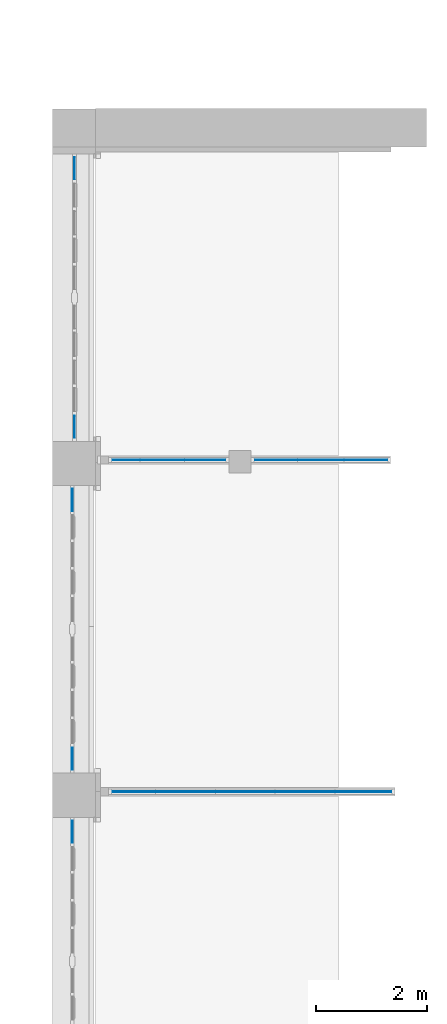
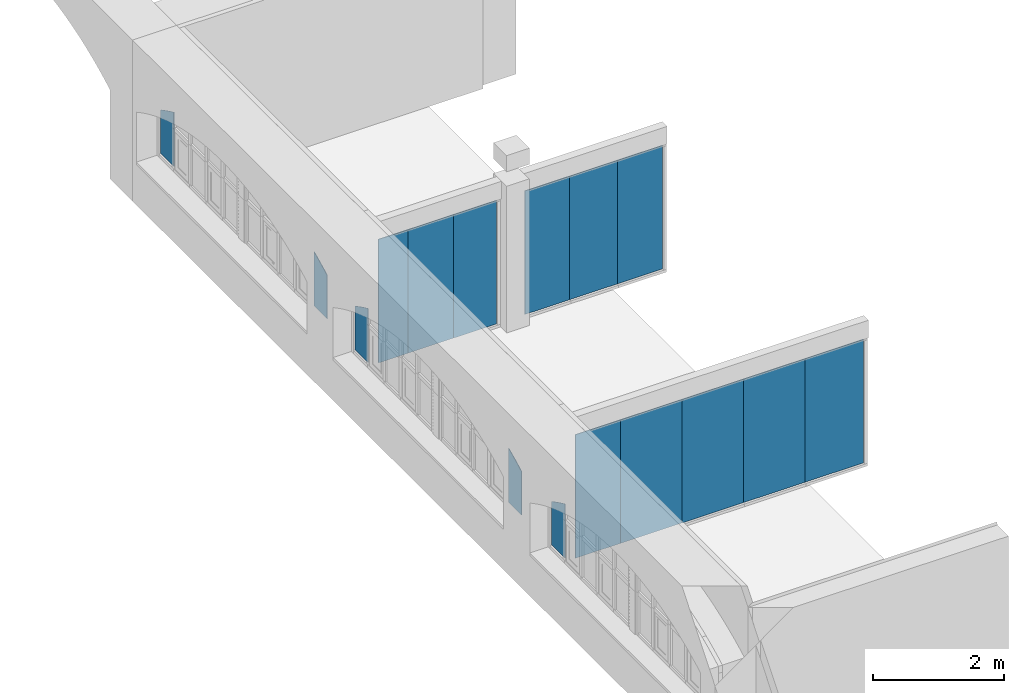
# One storey, part 24 of 32: 16 plates, 6 elements without a shape of their own.
"""IFC2X3 building model written with IfcOpenShell, lengths in millimetres."""

from ifc_helpers import new_model, entity, si_unit, converted_unit, derived_unit, direction, frame, frame_2d, origin, origin_2d_with_axis, place, context, subcontext, project, spatial, polyline, circle_curve, parameter, trimmed, segment, composite_curve, rectangle, outline, extrude, source, transform, mapped, material, type_object, type_shapes, element, aggregate, save


model = new_model("IFC2X3")

# Units and contexts
model_context = context("Model", 3, precision=0.01, world=origin(), true_north=direction((6.123031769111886e-17, 1.0)))
body_context = subcontext(model_context, "Body", "Model", "MODEL_VIEW")
ifc_project = project(units=[si_unit("LENGTHUNIT", "METRE", prefix="MILLI"), si_unit("AREAUNIT", "SQUARE_METRE"), si_unit("VOLUMEUNIT", "CUBIC_METRE"), converted_unit("PLANEANGLEUNIT", "DEGREE", entity("IfcPlaneAngleMeasure", 0.017453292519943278), si_unit("PLANEANGLEUNIT", "RADIAN"), dimensions=[0, 0, 0, 0, 0, 0, 0]), si_unit("MASSUNIT", "GRAM", prefix="KILO"), derived_unit("MASSDENSITYUNIT", [(si_unit("MASSUNIT", "GRAM", prefix="KILO"), 1), (si_unit("LENGTHUNIT", "METRE"), -3)]), derived_unit("IONCONCENTRATIONUNIT", [(si_unit("MASSUNIT", "GRAM", prefix="KILO"), 1), (si_unit("LENGTHUNIT", "METRE"), -3)]), derived_unit("MOMENTOFINERTIAUNIT", [(si_unit("LENGTHUNIT", "METRE"), 4)]), si_unit("TIMEUNIT", "SECOND"), si_unit("FREQUENCYUNIT", "HERTZ"), si_unit("THERMODYNAMICTEMPERATUREUNIT", "DEGREE_CELSIUS"), derived_unit("THERMALTRANSMITTANCEUNIT", [(si_unit("MASSUNIT", "GRAM", prefix="KILO"), 1), (si_unit("THERMODYNAMICTEMPERATUREUNIT", "KELVIN"), -1), (si_unit("TIMEUNIT", "SECOND"), -3)]), derived_unit("THERMALCONDUCTANCEUNIT", [(si_unit("MASSUNIT", "GRAM", prefix="KILO"), 1), (si_unit("THERMODYNAMICTEMPERATUREUNIT", "KELVIN"), -1), (si_unit("TIMEUNIT", "SECOND"), -3), (si_unit("LENGTHUNIT", "METRE"), 1)]), derived_unit("VOLUMETRICFLOWRATEUNIT", [(si_unit("LENGTHUNIT", "METRE", prefix="DECI"), 3), (si_unit("TIMEUNIT", "SECOND"), -1)]), derived_unit("MASSFLOWRATEUNIT", [(si_unit("MASSUNIT", "GRAM", prefix="KILO"), 1), (si_unit("TIMEUNIT", "SECOND"), -1)]), derived_unit("ROTATIONALFREQUENCYUNIT", [(si_unit("TIMEUNIT", "SECOND"), -1)]), si_unit("ELECTRICCURRENTUNIT", "AMPERE"), si_unit("ELECTRICVOLTAGEUNIT", "VOLT"), si_unit("POWERUNIT", "WATT"), si_unit("FORCEUNIT", "NEWTON", prefix="KILO"), si_unit("ILLUMINANCEUNIT", "LUX"), si_unit("LUMINOUSFLUXUNIT", "LUMEN"), si_unit("LUMINOUSINTENSITYUNIT", "CANDELA"), si_unit("ENERGYUNIT", "JOULE"), derived_unit("USERDEFINED", [(si_unit("MASSUNIT", "GRAM", prefix="KILO"), -1), (si_unit("LENGTHUNIT", "METRE"), -2), (si_unit("TIMEUNIT", "SECOND"), 3), (si_unit("LUMINOUSFLUXUNIT", "LUMEN"), 1)]), derived_unit("USERDEFINED", [(si_unit("MASSUNIT", "GRAM", prefix="KILO"), 1), (si_unit("TIMEUNIT", "SECOND"), -3), (si_unit("LENGTHUNIT", "METRE"), 3), (si_unit("ELECTRICCURRENTUNIT", "AMPERE"), -2)]), derived_unit("SOUNDPOWERUNIT", [(si_unit("MASSUNIT", "GRAM", prefix="KILO"), 1), (si_unit("TIMEUNIT", "SECOND"), -3), (si_unit("LENGTHUNIT", "METRE"), 2)]), derived_unit("SOUNDPRESSUREUNIT", [(si_unit("MASSUNIT", "GRAM", prefix="KILO"), 1), (si_unit("LENGTHUNIT", "METRE"), -1), (si_unit("TIMEUNIT", "SECOND"), -2)]), derived_unit("LINEARVELOCITYUNIT", [(si_unit("LENGTHUNIT", "METRE"), 1), (si_unit("TIMEUNIT", "SECOND"), -1)]), si_unit("PRESSUREUNIT", "PASCAL"), derived_unit("USERDEFINED", [(si_unit("MASSUNIT", "GRAM", prefix="KILO"), 1), (si_unit("LENGTHUNIT", "METRE"), -2), (si_unit("TIMEUNIT", "SECOND"), -2)]), derived_unit("LINEARFORCEUNIT", [(si_unit("MASSUNIT", "GRAM", prefix="KILO"), 1), (si_unit("TIMEUNIT", "SECOND"), -2)]), derived_unit("PLANARFORCEUNIT", [(si_unit("MASSUNIT", "GRAM", prefix="KILO"), 1), (si_unit("LENGTHUNIT", "METRE"), -1), (si_unit("TIMEUNIT", "SECOND"), -2)]), derived_unit("SPECIFICHEATCAPACITYUNIT", [(si_unit("THERMODYNAMICTEMPERATUREUNIT", "KELVIN"), -1), (si_unit("LENGTHUNIT", "METRE"), 2), (si_unit("TIMEUNIT", "SECOND"), -2)]), derived_unit("HEATFLUXDENSITYUNIT", [(si_unit("MASSUNIT", "GRAM", prefix="KILO"), 1), (si_unit("TIMEUNIT", "SECOND"), -3)]), derived_unit("HEATINGVALUEUNIT", [(si_unit("LENGTHUNIT", "METRE"), 2), (si_unit("TIMEUNIT", "SECOND"), -2)]), derived_unit("VAPORPERMEABILITYUNIT", [(si_unit("LENGTHUNIT", "METRE"), -1), (si_unit("TIMEUNIT", "SECOND"), 1)]), derived_unit("DYNAMICVISCOSITYUNIT", [(si_unit("MASSUNIT", "GRAM", prefix="KILO"), 1), (si_unit("TIMEUNIT", "SECOND"), -1), (si_unit("LENGTHUNIT", "METRE"), -1)]), derived_unit("THERMALEXPANSIONCOEFFICIENTUNIT", [(si_unit("THERMODYNAMICTEMPERATUREUNIT", "KELVIN"), -1)]), derived_unit("MODULUSOFELASTICITYUNIT", [(si_unit("MASSUNIT", "GRAM", prefix="KILO"), 1), (si_unit("LENGTHUNIT", "METRE"), -1), (si_unit("TIMEUNIT", "SECOND"), -2)]), derived_unit("ISOTHERMALMOISTURECAPACITYUNIT", [(si_unit("MASSUNIT", "GRAM", prefix="KILO"), -1), (si_unit("LENGTHUNIT", "METRE"), 3)]), derived_unit("MOISTUREDIFFUSIVITYUNIT", [(si_unit("TIMEUNIT", "SECOND"), -1), (si_unit("LENGTHUNIT", "METRE"), 2)]), derived_unit("MASSPERLENGTHUNIT", [(si_unit("MASSUNIT", "GRAM", prefix="KILO"), 1), (si_unit("LENGTHUNIT", "METRE"), -1)]), derived_unit("THERMALRESISTANCEUNIT", [(si_unit("MASSUNIT", "GRAM", prefix="KILO"), -1), (si_unit("TIMEUNIT", "SECOND"), 3), (si_unit("THERMODYNAMICTEMPERATUREUNIT", "KELVIN"), 1)]), derived_unit("ACCELERATIONUNIT", [(si_unit("LENGTHUNIT", "METRE"), 1), (si_unit("TIMEUNIT", "SECOND"), -2)]), derived_unit("ANGULARVELOCITYUNIT", [(si_unit("TIMEUNIT", "SECOND"), -1), (si_unit("PLANEANGLEUNIT", "RADIAN"), 1)]), derived_unit("LINEARSTIFFNESSUNIT", [(si_unit("MASSUNIT", "GRAM", prefix="KILO"), 1), (si_unit("TIMEUNIT", "SECOND"), -2)]), derived_unit("WARPINGCONSTANTUNIT", [(si_unit("LENGTHUNIT", "METRE"), 6)]), derived_unit("LINEARMOMENTUNIT", [(si_unit("MASSUNIT", "GRAM", prefix="KILO"), 1), (si_unit("LENGTHUNIT", "METRE"), 1), (si_unit("TIMEUNIT", "SECOND"), -2)]), derived_unit("TORQUEUNIT", [(si_unit("MASSUNIT", "GRAM", prefix="KILO"), 1), (si_unit("LENGTHUNIT", "METRE"), 2), (si_unit("TIMEUNIT", "SECOND"), -2)])], contexts=[model_context])

# Site, building, storey
site_placement = place(None, origin())
site = spatial("IfcSite", under=ifc_project, at=site_placement, Name="Default", CompositionType="ELEMENT")
building_placement = place(site_placement, origin())
building = spatial("IfcBuilding", under=site, at=building_placement, Name="Eesti Rahvusraamatukogu hoone renoveerimise projekteerimistööd", CompositionType="ELEMENT")
storey_placement = place(building_placement, frame((0.0, 0.0, 4950.000000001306)))
storey = spatial("IfcBuildingStorey", under=building, at=storey_placement, Name="2. korrus", CompositionType="ELEMENT", Elevation=4950.000000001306)

# Curtain wall, plates
curtain_wall_type_1 = type_object("IfcCurtainWallType", Name="Curtain Wall:VLS Klaasvahesein profiilita 38db", PredefinedType="NOTDEFINED")
curtain_wall_1_placement = place(storey_placement, frame((0.0, 0.0, -4950.000000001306)))
curtain_wall_1 = element("IfcCurtainWall", 1, at=curtain_wall_1_placement, inside=storey, type_object=curtain_wall_type_1, Name="Curtain Wall:VLS Klaasvahesein profiilita 38db", ObjectType="Curtain Wall:VLS Klaasvahesein profiilita 38db")
ifc_material_1 = material(Name="EST. Klaas. 1x. E-korpus")
plate_type_1 = type_object("IfcPlateType", Name="System Panel:VLS Klaas KAR/LAM 6+1+6", PredefinedType="CURTAIN_PANEL", material=ifc_material_1)
shared_shape_1 = source(origin(), body_context, "Body", "SweptSolid", [
    extrude(rectangle(XDim=13.000000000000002, YDim=518.8333334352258, at=origin_2d_with_axis()), frame((0.0, 0.0, 0.0), z_axis=(0.0, 0.0, 1.0), x_axis=(0.0, 1.0, 0.0)), (0.0, 0.0, 1.0), 2300.0000000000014),
])
type_shapes(plate_type_1, [shared_shape_1])
plate_1_placement = place(curtain_wall_1_placement, frame((-35456.08333328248, 42420.0, 5000.0)))
plate_1 = element("IfcPlate", 2, at=plate_1_placement, type_object=plate_type_1, material=ifc_material_1, Name="System Panel:VLS Klaas KAR/LAM 6+1+6", ObjectType="System Panel:VLS Klaas KAR/LAM 6+1+6", context=body_context, shape_type="MappedRepresentation", body=[
    mapped(shared_shape_1, transform((0.0, 0.0, 0.0), scale=1.0)),
])
plate_type_2 = type_object("IfcPlateType", Name="System Panel:VLS Klaas KAR/LAM 6+1+6", PredefinedType="CURTAIN_PANEL", material=ifc_material_1)
shared_shape_2 = source(origin(), body_context, "Body", "SweptSolid", [
    extrude(rectangle(XDim=13.000000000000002, YDim=803.3333331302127, at=origin_2d_with_axis()), frame((0.0, 0.0, 0.0), z_axis=(0.0, 0.0, 1.0), x_axis=(0.0, 1.0, 0.0)), (0.0, 0.0, 1.0), 2300.0000000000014),
])
type_shapes(plate_type_2, [shared_shape_2])
plate_2_placement = place(curtain_wall_1_placement, frame((-34795.0, 42420.0, 5000.0)))
plate_2 = element("IfcPlate", 3, at=plate_2_placement, type_object=plate_type_2, material=ifc_material_1, Name="System Panel:VLS Klaas KAR/LAM 6+1+6", ObjectType="System Panel:VLS Klaas KAR/LAM 6+1+6", context=body_context, shape_type="MappedRepresentation", body=[
    mapped(shared_shape_2, transform((0.0, 0.0, 0.0), scale=1.0)),
])
plate_type_3 = type_object("IfcPlateType", Name="System Panel:VLS Klaas KAR/LAM 6+1+6", PredefinedType="CURTAIN_PANEL", material=ifc_material_1)
shared_shape_3 = source(origin(), body_context, "Body", "SweptSolid", [
    extrude(rectangle(XDim=13.000000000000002, YDim=753.333333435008, at=origin_2d_with_axis()), frame((0.0, 0.0, 0.0), z_axis=(0.0, 0.0, 1.0), x_axis=(0.0, 1.0, 0.0)), (0.0, 0.0, 1.0), 2300.0000000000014),
])
type_shapes(plate_type_3, [shared_shape_3])
plate_3_placement = place(curtain_wall_1_placement, frame((-34016.666666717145, 42420.0, 5000.0)))
plate_3 = element("IfcPlate", 4, at=plate_3_placement, type_object=plate_type_3, material=ifc_material_1, Name="System Panel:VLS Klaas KAR/LAM 6+1+6", ObjectType="System Panel:VLS Klaas KAR/LAM 6+1+6", context=body_context, shape_type="MappedRepresentation", body=[
    mapped(shared_shape_3, transform((0.0, 0.0, 0.0), scale=1.0)),
])
aggregate(curtain_wall_1, [plate_1, plate_2, plate_3])

curtain_wall_2_placement = place(storey_placement, frame((0.0, 0.0, -4950.000000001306)))
curtain_wall_2 = element("IfcCurtainWall", 5, at=curtain_wall_2_placement, inside=storey, type_object=curtain_wall_type_1, Name="Curtain Wall:VLS Klaasvahesein profiilita 38db", ObjectType="Curtain Wall:VLS Klaasvahesein profiilita 38db")
plate_type_4 = type_object("IfcPlateType", Name="System Panel:VLS Klaas KAR/LAM 6+1+6", PredefinedType="CURTAIN_PANEL", material=ifc_material_1)
shared_shape_4 = source(origin(), body_context, "Body", "SweptSolid", [
    extrude(rectangle(XDim=13.000000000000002, YDim=790.0000001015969, at=origin_2d_with_axis()), frame((0.0, 0.0, 0.0), z_axis=(0.0, 0.0, 1.0), x_axis=(0.0, 1.0, 0.0)), (0.0, 0.0, 1.0), 2300.0000000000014),
])
type_shapes(plate_type_4, [shared_shape_4])
plate_4_placement = place(curtain_wall_2_placement, frame((-32744.999999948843, 42420.0, 5000.0)))
plate_4 = element("IfcPlate", 6, at=plate_4_placement, type_object=plate_type_4, material=ifc_material_1, Name="System Panel:VLS Klaas KAR/LAM 6+1+6", ObjectType="System Panel:VLS Klaas KAR/LAM 6+1+6", context=body_context, shape_type="MappedRepresentation", body=[
    mapped(shared_shape_4, transform((0.0, 0.0, 0.0), scale=1.0)),
])
plate_type_5 = type_object("IfcPlateType", Name="System Panel:VLS Klaas KAR/LAM 6+1+6", PredefinedType="CURTAIN_PANEL", material=ifc_material_1)
shared_shape_5 = source(origin(), body_context, "Body", "SweptSolid", [
    extrude(rectangle(XDim=13.000000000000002, YDim=839.9999997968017, at=origin_2d_with_axis()), frame((0.0, 0.0, 0.0), z_axis=(0.0, 0.0, 1.0), x_axis=(0.0, 1.0, 0.0)), (0.0, 0.0, 1.0), 2300.0000000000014),
])
type_shapes(plate_type_5, [shared_shape_5])
plate_5_placement = place(curtain_wall_2_placement, frame((-31930.0, 42420.0, 5000.0)))
plate_5 = element("IfcPlate", 7, at=plate_5_placement, type_object=plate_type_5, material=ifc_material_1, Name="System Panel:VLS Klaas KAR/LAM 6+1+6", ObjectType="System Panel:VLS Klaas KAR/LAM 6+1+6", context=body_context, shape_type="MappedRepresentation", body=[
    mapped(shared_shape_5, transform((0.0, 0.0, 0.0), scale=1.0)),
])
plate_type_6 = type_object("IfcPlateType", Name="System Panel:VLS Klaas KAR/LAM 6+1+6", PredefinedType="CURTAIN_PANEL", material=ifc_material_1)
shared_shape_6 = source(origin(), body_context, "Body", "SweptSolid", [
    extrude(rectangle(XDim=13.000000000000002, YDim=795.2500001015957, at=origin_2d_with_axis()), frame((0.0, 0.0, 0.0), z_axis=(0.0, 0.0, 1.0), x_axis=(0.0, 1.0, 0.0)), (0.0, 0.0, 1.0), 2300.0000000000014),
])
type_shapes(plate_type_6, [shared_shape_6])
plate_6_placement = place(curtain_wall_2_placement, frame((-31112.375000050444, 42420.0, 5000.0)))
plate_6 = element("IfcPlate", 8, at=plate_6_placement, type_object=plate_type_6, material=ifc_material_1, Name="System Panel:VLS Klaas KAR/LAM 6+1+6", ObjectType="System Panel:VLS Klaas KAR/LAM 6+1+6", context=body_context, shape_type="MappedRepresentation", body=[
    mapped(shared_shape_6, transform((0.0, 0.0, 0.0), scale=1.0)),
])
aggregate(curtain_wall_2, [plate_4, plate_5, plate_6])

curtain_wall_3_placement = place(storey_placement, frame((0.0, 0.0, -4950.000000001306)))
curtain_wall_3 = element("IfcCurtainWall", 9, at=curtain_wall_3_placement, inside=storey, type_object=curtain_wall_type_1, Name="Curtain Wall:VLS Klaasvahesein profiilita 38db", ObjectType="Curtain Wall:VLS Klaasvahesein profiilita 38db")
plate_type_7 = type_object("IfcPlateType", Name="System Panel:VLS Klaas KAR/LAM 6+1+6", PredefinedType="CURTAIN_PANEL", material=ifc_material_1)
shared_shape_7 = source(origin(), body_context, "Body", "SweptSolid", [
    extrude(rectangle(XDim=13.000000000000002, YDim=797.5000001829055, at=origin_2d_with_axis()), frame((0.0, 0.0, 0.0), z_axis=(0.0, 0.0, 1.0), x_axis=(0.0, 1.0, 0.0)), (0.0, 0.0, 1.0), 2300.0000000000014),
])
type_shapes(plate_type_7, [shared_shape_7])
plate_7_placement = place(curtain_wall_3_placement, frame((-35316.74999990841, 36420.0, 5000.0)))
plate_7 = element("IfcPlate", 10, at=plate_7_placement, type_object=plate_type_7, material=ifc_material_1, Name="System Panel:VLS Klaas KAR/LAM 6+1+6", ObjectType="System Panel:VLS Klaas KAR/LAM 6+1+6", context=body_context, shape_type="MappedRepresentation", body=[
    mapped(shared_shape_7, transform((0.0, 0.0, 0.0), scale=1.0)),
])
plate_type_8 = type_object("IfcPlateType", Name="System Panel:VLS Klaas KAR/LAM 6+1+6", PredefinedType="CURTAIN_PANEL", material=ifc_material_1)
shared_shape_8 = source(origin(), body_context, "Body", "SweptSolid", [
    extrude(rectangle(XDim=13.000000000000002, YDim=1081.9999998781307, at=origin_2d_with_axis()), frame((0.0, 0.0, 0.0), z_axis=(0.0, 0.0, 1.0), x_axis=(0.0, 1.0, 0.0)), (0.0, 0.0, 1.0), 2300.0000000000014),
])
type_shapes(plate_type_8, [shared_shape_8])
plate_8_placement = place(curtain_wall_3_placement, frame((-34376.999999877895, 36420.0, 5000.0)))
plate_8 = element("IfcPlate", 11, at=plate_8_placement, type_object=plate_type_8, material=ifc_material_1, Name="System Panel:VLS Klaas KAR/LAM 6+1+6", ObjectType="System Panel:VLS Klaas KAR/LAM 6+1+6", context=body_context, shape_type="MappedRepresentation", body=[
    mapped(shared_shape_8, transform((0.0, 0.0, 0.0), scale=1.0)),
])
plate_9_placement = place(curtain_wall_3_placement, frame((-33295.0, 36420.0, 5000.0)))
plate_9 = element("IfcPlate", 12, at=plate_9_placement, type_object=plate_type_8, material=ifc_material_1, Name="System Panel:VLS Klaas KAR/LAM 6+1+6", ObjectType="System Panel:VLS Klaas KAR/LAM 6+1+6", context=body_context, shape_type="MappedRepresentation", body=[
    mapped(shared_shape_8, transform((0.0, 0.0, 0.0), scale=1.0)),
])
plate_10_placement = place(curtain_wall_3_placement, frame((-32213.000000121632, 36420.0, 5000.0)))
plate_10 = element("IfcPlate", 13, at=plate_10_placement, type_object=plate_type_8, material=ifc_material_1, Name="System Panel:VLS Klaas KAR/LAM 6+1+6", ObjectType="System Panel:VLS Klaas KAR/LAM 6+1+6", context=body_context, shape_type="MappedRepresentation", body=[
    mapped(shared_shape_8, transform((0.0, 0.0, 0.0), scale=1.0)),
])
plate_type_9 = type_object("IfcPlateType", Name="System Panel:VLS Klaas KAR/LAM 6+1+6", PredefinedType="CURTAIN_PANEL", material=ifc_material_1)
shared_shape_9 = source(origin(), body_context, "Body", "SweptSolid", [
    extrude(rectangle(XDim=13.000000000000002, YDim=1032.0000001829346, at=origin_2d_with_axis()), frame((0.0, 0.0, 0.0), z_axis=(0.0, 0.0, 1.0), x_axis=(0.0, 1.0, 0.0)), (0.0, 0.0, 1.0), 2300.0000000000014),
])
type_shapes(plate_type_9, [shared_shape_9])
plate_11_placement = place(curtain_wall_3_placement, frame((-31156.000000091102, 36420.0, 5000.0)))
plate_11 = element("IfcPlate", 14, at=plate_11_placement, type_object=plate_type_9, material=ifc_material_1, Name="System Panel:VLS Klaas KAR/LAM 6+1+6", ObjectType="System Panel:VLS Klaas KAR/LAM 6+1+6", context=body_context, shape_type="MappedRepresentation", body=[
    mapped(shared_shape_9, transform((0.0, 0.0, 0.0), scale=1.0)),
])
aggregate(curtain_wall_3, [plate_7, plate_8, plate_9, plate_10, plate_11])

# Curtain wall, plate
curtain_wall_type_2 = type_object("IfcCurtainWallType", Name="Curtain Wall:Ak-04", PredefinedType="NOTDEFINED")
curtain_wall_4_placement = place(storey_placement, frame((0.0, 0.0, -4950.000000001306)))
curtain_wall_4 = element("IfcCurtainWall", 15, at=curtain_wall_4_placement, inside=storey, type_object=curtain_wall_type_2, Name="Curtain Wall:Ak-04", ObjectType="Curtain Wall:Ak-04")
ifc_material_2 = material(Name="EST. Klaas. 3x. Default")
plate_type_10 = type_object("IfcPlateType", Name="System Panel:Peegelaknad 6-16-4-16-4, paneel", PredefinedType="CURTAIN_PANEL", material=ifc_material_2)
shared_shape_10 = source(origin(), body_context, "Body", "SweptSolid", [
    extrude(outline(composite_curve([segment(polyline([(-550.0682901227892, -200.0), (189.93170987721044, -200.0)]), True, "CONTINUOUS"), segment(polyline([(189.93170987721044, -200.0), (261.6098701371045, -200.0)]), True, "CONTINUOUS"), segment(trimmed(circle_curve(frame_2d((-4389.844409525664, 2340.0), x_axis=(0.9206661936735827, -0.3903508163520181)), 5299.7761194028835), [parameter(354.3388865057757)], [parameter(359.16096527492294)], True, "PARAMETER"), True, "CONTINUOUS"), segment(polyline([(458.66329035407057, 200.0), (189.93170987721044, 200.0)]), True, "CONTINUOUS"), segment(polyline([(189.93170987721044, 200.0), (-550.0682901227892, 200.0)]), True, "CONTINUOUS"), segment(polyline([(-550.0682901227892, 200.0), (-550.0682901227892, -200.0)]), True, "CONTINUOUS")], self_intersect=False)), frame((0.0, -5.0, 550.0682901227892), z_axis=(0.0, 1.0, 0.0), x_axis=(0.0, 0.0, 1.0)), (0.0, 0.0, 1.0), 10.0),
])
type_shapes(plate_type_10, [shared_shape_10])
plate_12_placement = place(curtain_wall_4_placement, frame((-36425.0, 41697.50000000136, 5810.000000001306), z_axis=(0.0, 0.0, 1.0), x_axis=(0.0, -1.0, 0.0)))
plate_12 = element("IfcPlate", 16, at=plate_12_placement, type_object=plate_type_10, material=ifc_material_2, Name="System Panel:Peegelaknad 6-16-4-16-4, paneel", ObjectType="System Panel:Peegelaknad 6-16-4-16-4, paneel", context=body_context, shape_type="MappedRepresentation", body=[
    mapped(shared_shape_10, transform((0.0, 0.0, 0.0), scale=1.0)),
])

curtain_wall_5_placement = place(storey_placement, frame((0.0, 0.0, -4950.000000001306)))
curtain_wall_5 = element("IfcCurtainWall", 17, at=curtain_wall_5_placement, inside=storey, type_object=curtain_wall_type_2, Name="Curtain Wall:Ak-04", ObjectType="Curtain Wall:Ak-04")
plate_13_placement = place(curtain_wall_5_placement, frame((-36383.999999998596, 47699.00000000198, 5810.000000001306), z_axis=(0.0, 0.0, 1.0), x_axis=(0.0, -1.0, 0.0)))
plate_13 = element("IfcPlate", 18, at=plate_13_placement, type_object=plate_type_10, material=ifc_material_2, Name="System Panel:Peegelaknad 6-16-4-16-4, paneel", ObjectType="System Panel:Peegelaknad 6-16-4-16-4, paneel", context=body_context, shape_type="MappedRepresentation", body=[
    mapped(shared_shape_10, transform((0.0, 0.0, 0.0), scale=1.0)),
])

curtain_wall_6_placement = place(storey_placement, frame((0.0, 0.0, -4950.000000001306)))
curtain_wall_6 = element("IfcCurtainWall", 19, at=curtain_wall_6_placement, inside=storey, type_object=curtain_wall_type_2, Name="Curtain Wall:Ak-04", ObjectType="Curtain Wall:Ak-04")
plate_14_placement = place(curtain_wall_6_placement, frame((-36425.0, 35695.44029191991, 5810.000000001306), z_axis=(0.0, 0.0, 1.0), x_axis=(0.0, -1.0, 0.0)))
plate_14 = element("IfcPlate", 20, at=plate_14_placement, type_object=plate_type_10, material=ifc_material_2, Name="System Panel:Peegelaknad 6-16-4-16-4, paneel", ObjectType="System Panel:Peegelaknad 6-16-4-16-4, paneel", context=body_context, shape_type="MappedRepresentation", body=[
    mapped(shared_shape_10, transform((0.0, 0.0, 0.0), scale=1.0)),
])
aggregate(curtain_wall_6, [plate_14])

# Plate
plate_type_11 = type_object("IfcPlateType", Name="System Panel:Peegelaknad 6-16-4-16-4, paneel", PredefinedType="CURTAIN_PANEL", material=ifc_material_2)
shared_shape_11 = source(origin(), body_context, "Body", "SweptSolid", [
    extrude(outline(composite_curve([segment(polyline([(-550.0682901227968, 200.0), (-550.0682901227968, -200.0)]), True, "CONTINUOUS"), segment(polyline([(-550.0682901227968, -200.0), (189.93170987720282, -200.0)]), True, "CONTINUOUS"), segment(polyline([(189.93170987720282, -200.0), (261.60987013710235, -200.0)]), True, "CONTINUOUS"), segment(trimmed(circle_curve(frame_2d((-4389.8444095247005, 2340.0), x_axis=(0.8754595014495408, -0.48329148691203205)), 5299.77611940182), [parameter(0.2631523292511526)], [parameter(5.085231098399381)], True, "PARAMETER"), True, "CONTINUOUS"), segment(polyline([(458.66329035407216, 200.0), (189.93170987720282, 200.0)]), True, "CONTINUOUS"), segment(polyline([(189.93170987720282, 200.0), (-550.0682901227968, 200.0)]), True, "CONTINUOUS")], self_intersect=False)), frame((0.0, -5.0, 550.0682901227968), z_axis=(0.0, -1.0, 0.0), x_axis=(0.0, 0.0, 1.0)), (0.0, 0.0, -1.0), 10.0),
])
type_shapes(plate_type_11, [shared_shape_11])
plate_15_placement = place(curtain_wall_4_placement, frame((-36425.0, 37017.50000000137, 5810.000000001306), z_axis=(0.0, 0.0, 1.0), x_axis=(0.0, -1.0, 0.0)))
plate_15 = element("IfcPlate", 21, at=plate_15_placement, type_object=plate_type_11, material=ifc_material_2, Name="System Panel:Peegelaknad 6-16-4-16-4, paneel", ObjectType="System Panel:Peegelaknad 6-16-4-16-4, paneel", context=body_context, shape_type="MappedRepresentation", body=[
    mapped(shared_shape_11, transform((0.0, 0.0, 0.0), scale=1.0)),
])

aggregate(curtain_wall_4, [plate_12, plate_15])

plate_16_placement = place(curtain_wall_5_placement, frame((-36383.9999999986, 43019.000000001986, 5810.000000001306), z_axis=(0.0, 0.0, 1.0), x_axis=(0.0, -1.0, 0.0)))
plate_16 = element("IfcPlate", 22, at=plate_16_placement, type_object=plate_type_11, material=ifc_material_2, Name="System Panel:Peegelaknad 6-16-4-16-4, paneel", ObjectType="System Panel:Peegelaknad 6-16-4-16-4, paneel", context=body_context, shape_type="MappedRepresentation", body=[
    mapped(shared_shape_11, transform((0.0, 0.0, 0.0), scale=1.0)),
])

aggregate(curtain_wall_5, [plate_13, plate_16])

save(model, "model.ifc")
